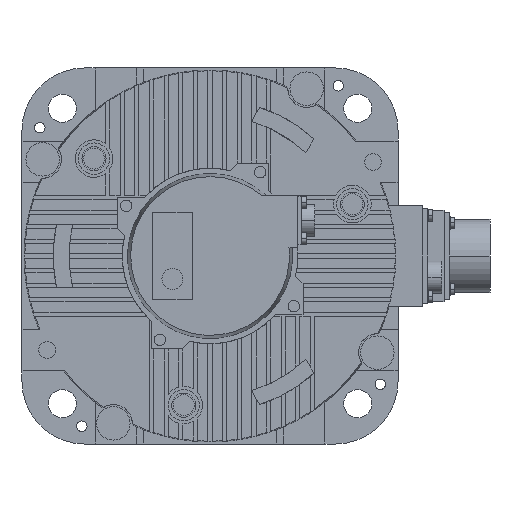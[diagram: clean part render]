
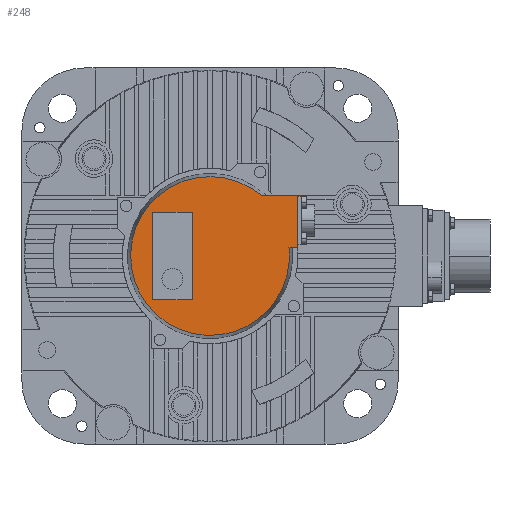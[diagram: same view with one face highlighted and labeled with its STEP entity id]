
A CAD part, left-side view. The second image highlights one B-rep face of the part: STEP entity #248.
In plain terms, the highlighted planar face has unit normal (-1, 0, 0).
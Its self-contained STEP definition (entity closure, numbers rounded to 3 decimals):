
#248=ADVANCED_FACE('',(#2328,#2329),#2327,.F.);
#2327=PLANE('',#10225);
#2328=FACE_OUTER_BOUND('',#10226,.T.);
#2329=FACE_BOUND('',#10227,.T.);
#10222=CARTESIAN_POINT('',(-208.,-52.891,71.254));
#10223=DIRECTION('',(1.,0.,0.));
#10224=DIRECTION('',(0.,0.,-1.));
#10225=AXIS2_PLACEMENT_3D('',#10222,#10223,#10224);
#10226=EDGE_LOOP('',(#14808,#14809,#14810,#14811));
#10227=EDGE_LOOP('',(#14812,#14813,#14814,#14815));
#14808=ORIENTED_EDGE('',*,*,#18695,.F.);
#14809=ORIENTED_EDGE('',*,*,#19290,.F.);
#14810=ORIENTED_EDGE('',*,*,#19154,.F.);
#14811=ORIENTED_EDGE('',*,*,#19288,.F.);
#14812=ORIENTED_EDGE('',*,*,#19291,.F.);
#14813=ORIENTED_EDGE('',*,*,#19292,.F.);
#14814=ORIENTED_EDGE('',*,*,#19293,.F.);
#14815=ORIENTED_EDGE('',*,*,#19294,.F.);
#18695=EDGE_CURVE('',#21157,#21158,#21159,.T.);
#19154=EDGE_CURVE('',#24306,#24307,#24308,.T.);
#19288=EDGE_CURVE('',#21158,#24306,#25220,.T.);
#19290=EDGE_CURVE('',#24307,#21157,#25232,.T.);
#19291=EDGE_CURVE('',#25238,#25239,#25240,.T.);
#19292=EDGE_CURVE('',#25246,#25238,#25247,.T.);
#19293=EDGE_CURVE('',#25253,#25246,#25254,.T.);
#19294=EDGE_CURVE('',#25239,#25253,#25260,.T.);
#21157=VERTEX_POINT('',#36474);
#21158=VERTEX_POINT('',#36475);
#21159=CIRCLE('',#36479,38.);
#24306=VERTEX_POINT('',#38384);
#24307=VERTEX_POINT('',#38385);
#24308=LINE('',#38386,#38387);
#25220=LINE('',#38949,#38950);
#25232=LINE('',#38955,#38956);
#25238=VERTEX_POINT('',#38958);
#25239=VERTEX_POINT('',#38959);
#25240=LINE('',#38960,#38961);
#25246=VERTEX_POINT('',#38963);
#25247=LINE('',#38964,#38965);
#25253=VERTEX_POINT('',#38967);
#25254=LINE('',#38968,#38969);
#25260=LINE('',#38971,#38972);
#36474=CARTESIAN_POINT('',(-208.,-37.789,4.));
#36475=CARTESIAN_POINT('',(-208.,-24.556,29.));
#36476=CARTESIAN_POINT('',(-208.,0.,0.));
#36477=DIRECTION('',(1.,0.,0.));
#36478=DIRECTION('',(0.,-0.994,0.105));
#36479=AXIS2_PLACEMENT_3D('',#36476,#36477,#36478);
#38384=CARTESIAN_POINT('',(-208.,-42.,29.));
#38385=CARTESIAN_POINT('',(-208.,-42.,4.));
#38386=CARTESIAN_POINT('',(-208.,-42.,29.));
#38387=VECTOR('',#38388,25.);
#38388=DIRECTION('',(0.,0.,-1.));
#38949=CARTESIAN_POINT('',(-208.,-24.556,29.));
#38950=VECTOR('',#38951,17.444);
#38951=DIRECTION('',(0.,-1.,0.));
#38955=CARTESIAN_POINT('',(-208.,-42.,4.));
#38956=VECTOR('',#38957,4.211);
#38957=DIRECTION('',(0.,1.,0.));
#38958=CARTESIAN_POINT('',(-208.,8.5,-21.));
#38959=CARTESIAN_POINT('',(-208.,8.5,21.));
#38960=CARTESIAN_POINT('',(-208.,8.5,-21.));
#38961=VECTOR('',#38962,42.);
#38962=DIRECTION('',(0.,0.,1.));
#38963=CARTESIAN_POINT('',(-208.,27.5,-21.));
#38964=CARTESIAN_POINT('',(-208.,27.5,-21.));
#38965=VECTOR('',#38966,19.);
#38966=DIRECTION('',(0.,-1.,0.));
#38967=CARTESIAN_POINT('',(-208.,27.5,21.));
#38968=CARTESIAN_POINT('',(-208.,27.5,21.));
#38969=VECTOR('',#38970,42.);
#38970=DIRECTION('',(0.,0.,-1.));
#38971=CARTESIAN_POINT('',(-208.,8.5,21.));
#38972=VECTOR('',#38973,19.);
#38973=DIRECTION('',(0.,1.,0.));
